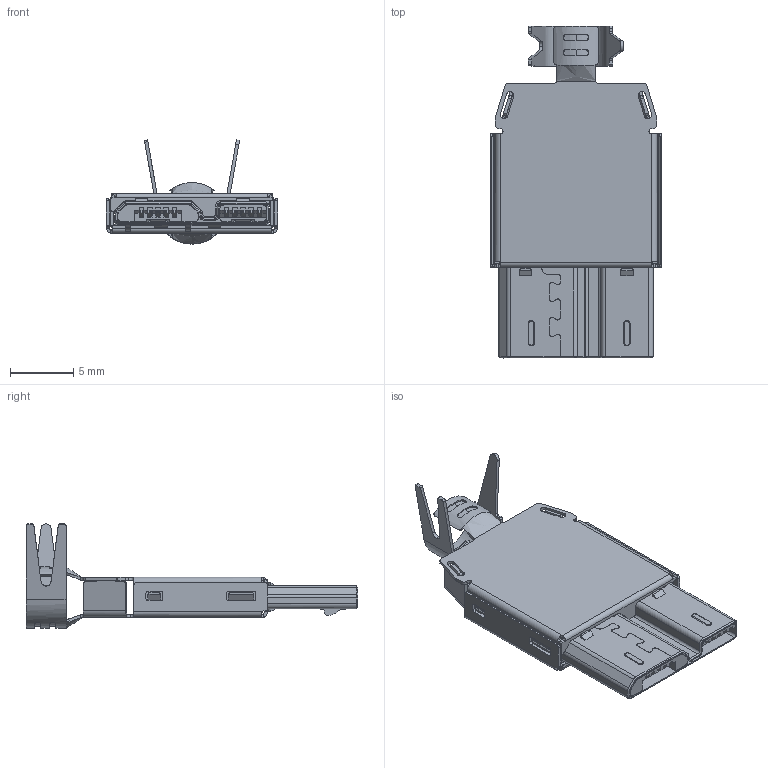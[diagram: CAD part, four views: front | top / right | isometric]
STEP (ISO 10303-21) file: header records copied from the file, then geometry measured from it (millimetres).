
FILE_DESCRIPTION (( 'STEP AP203' ), '1' );
FILE_NAME ('GT-MC9001.STEP', '2025-02-20T11:37:12', ( '' ), ( '' ), 'SwSTEP 2.0', 'SolidWorks 2023', '' );
FILE_SCHEMA (( 'CONFIG_CONTROL_DESIGN' ));
Length unit declared in the file: millimetre
Products named in the file (10): MICRO-USB3-BM-1HANXIAN-BO_ASM-Z_ASM.stp; MICRO-USB3-BM-1-HANXIANSHI-B_1.stp; MICRO-USB3-BM-1HANXIAN-BO_ASM_3.stp; MICRO-USB3-BM-1HANXIAN-BO_ASM_4.stp; MICRO-USB3-BM-1HANXIAN-BO_ASM_2.stp; GT-MC9001; MICRO-USB3-BM-1HANXIAN-BO_ASM_5.stp; MICRO-USB3-1-HANXIANSHI-N_1.stp; UB3M-AHLSW0124-0033.stp; MICRO-USB3-1-HANXIANSHI-W_1.stp
Assembly tree (9 placements, depth 4):
  GT-MC9001
    UB3M-AHLSW0124-0033.stp
      MICRO-USB3-BM-1HANXIAN-BO_ASM-Z_ASM.stp
        MICRO-USB3-BM-1HANXIAN-BO_ASM_2.stp
        MICRO-USB3-BM-1HANXIAN-BO_ASM_3.stp
        MICRO-USB3-BM-1HANXIAN-BO_ASM_4.stp
        MICRO-USB3-BM-1HANXIAN-BO_ASM_5.stp
      MICRO-USB3-BM-1-HANXIANSHI-B_1.stp
      MICRO-USB3-1-HANXIANSHI-N_1.stp
      MICRO-USB3-1-HANXIANSHI-W_1.stp
Bounding box: 13.5 x 26.15 x 8.21 mm (x, y, z)
Volume: 430.9 mm3; surface area: 2711.7 mm2
Topology: 7 solids, 7 shells, 1904 faces, 5575 edges, 3686 vertices
Faces by surface type: plane 1212, cylinder 558, bspline 92, torus 28, cone 10, sphere 4
Entity records: 69062 total; most frequent: CARTESIAN_POINT 17028, ORIENTED_EDGE 11142, DIRECTION 10078, EDGE_CURVE 5571, LINE 4102, VECTOR 4102, VERTEX_POINT 3686, AXIS2_PLACEMENT_3D 2988
